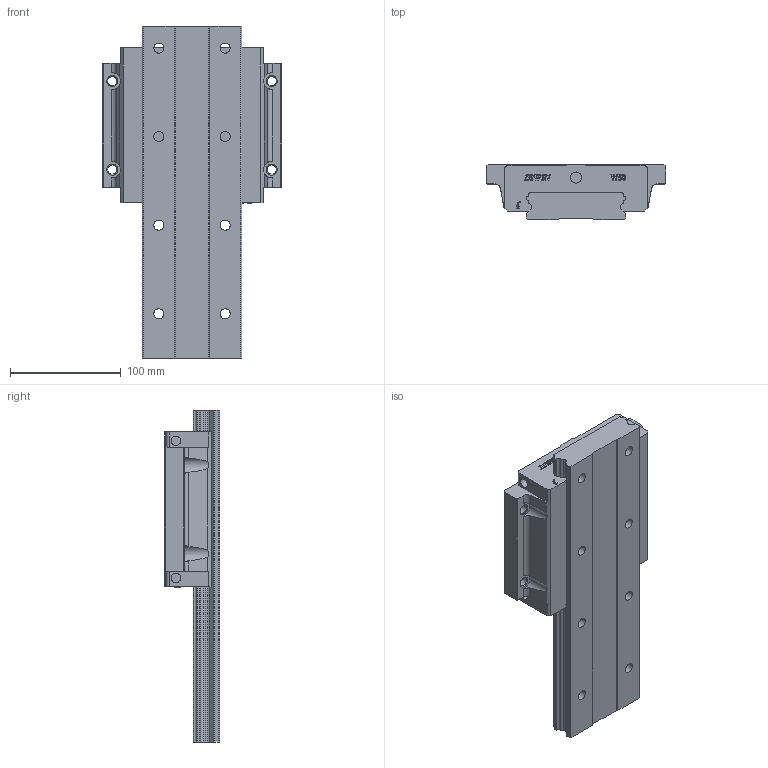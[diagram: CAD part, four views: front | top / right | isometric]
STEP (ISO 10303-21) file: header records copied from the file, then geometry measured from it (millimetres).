
FILE_DESCRIPTION((''),'2;1');
FILE_NAME('\\10.177.208.13\o000f\jenny6\桌面\WE50-20140424\WEW50CC\匯入的元件\WEW50CC\WEW50CC.stp','2014-04-24T07:15:50',('jenny6'),(''),'Autodesk Inventor 2012','Autodesk Inventor 2012','');
FILE_SCHEMA(('AUTOMOTIVE_DESIGN { 1 0 10303 214 1 1 1 1 }'));
Length unit declared in the file: millimetre
Products named in the file (3): WEW50CC; WEW50CC-BBX; WER50-rr2
Assembly tree (2 placements, depth 2):
  WEW50CC
    WEW50CC-BBX
    WER50-rr2
Bounding box: 162 x 50 x 300 mm (x, y, z)
Volume: 1216834.6 mm3; surface area: 154453.7 mm2
Topology: 2 solids, 4 shells, 762 faces, 2052 edges, 1350 vertices
Faces by surface type: plane 476, cylinder 178, bspline 66, cone 42
Full cylindrical faces by diameter (mm): 0.5 x2, 0.8 x2, 7.3 x2, 8.376 x4, 8.496 x4, 9 x8, 9.976 x2, 10.1 x2, 14 x8
Entity records: 24724 total; most frequent: CARTESIAN_POINT 5071, ORIENTED_EDGE 4000, DIRECTION 3672, EDGE_CURVE 2000, VECTOR 1450, LINE 1450, VERTEX_POINT 1342, AXIS2_PLACEMENT_3D 1111
